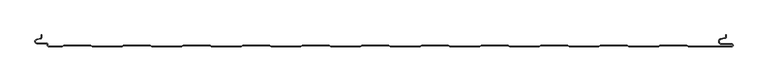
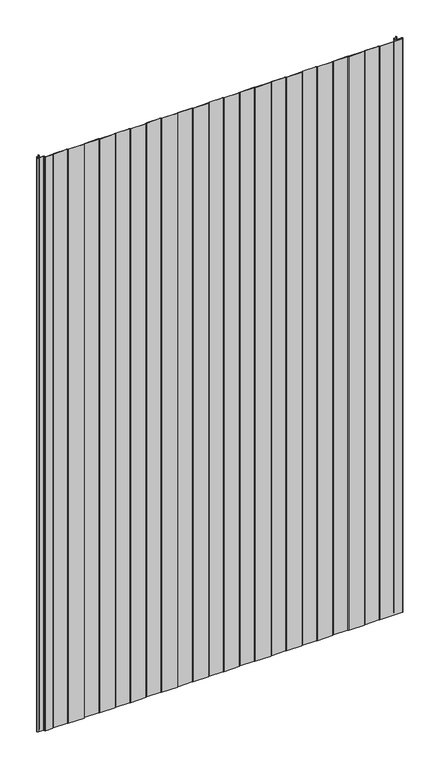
"""IFC4 building model written with IfcOpenShell, lengths in millimetres: plate geometry, PM1_Curtain-Panel_Perfil-Estándar : ACH_PM1_Panel-Acústico-Sectorización_100M."""

from ifc_helpers import new_model, si_unit, frame, origin, place, context, project, spatial, polyline, circle_curve, source, transform, mapped, element, save
from ifc_brep_helpers import plane_surface, cylinder_surface, revolved_surface, advanced_brep


def plate_77d0ed2d(model_context):
    return source(origin(), model_context, "Body", "AdvancedBrep", [
        advanced_brep(
        [(-562.4, -100.0, 1945.7507136), (-539.3999999, -100.0, 1945.7507136), (-536.8019223, -98.5, 1945.7507136), (-492.0019247, -98.5, 1945.7507136), (-489.4038471, -100.0, 1945.7507136), (-439.3999999, -100.0, 1945.7507136), (-436.8019223, -98.5, 1945.7507136), (-392.0019247, -98.5, 1945.7507136), (-389.4038471, -100.0, 1945.7507136), (-339.3999999, -100.0, 1945.7507136), (-336.8019223, -98.5, 1945.7507136), (-292.0019247, -98.5, 1945.7507136), (-289.4038471, -100.0, 1945.7507136), (-239.3999999, -100.0, 1945.7507136), (-236.8019223, -98.5, 1945.7507136), (-192.0019247, -98.5, 1945.7507136), (-189.4038471, -100.0, 1945.7507136), (-139.3999999, -100.0, 1945.7507136), (-136.8019223, -98.5, 1945.7507136), (-92.0019247, -98.5, 1945.7507136), (-89.4038471, -100.0, 1945.7507136), (-39.3999999, -100.0, 1945.7507136), (-36.8019223, -98.5, 1945.7507136), (7.9980753, -98.5, 1945.7507136), (10.5961529, -100.0, 1945.7507136), (60.6000001, -100.0, 1945.7507136), (63.1980777, -98.5, 1945.7507136), (107.9980753, -98.5, 1945.7507136), (110.5961529, -100.0, 1945.7507136), (160.6000001, -100.0, 1945.7507136), (163.1980777, -98.5, 1945.7507136), (207.9980753, -98.5, 1945.7507136), (210.5961529, -100.0, 1945.7507136), (260.6000001, -100.0, 1945.7507136), (263.1980777, -98.5, 1945.7507136), (307.9980753, -98.5, 1945.7507136), (310.5961529, -100.0, 1945.7507136), (360.6000001, -100.0, 1945.7507136), (363.1980777, -98.5, 1945.7507136), (407.9980753, -98.5, 1945.7507136), (410.5961529, -100.0, 1945.7507136), (460.6000001, -100.0, 1945.7507136), (463.1980777, -98.5, 1945.7507136), (507.9980753, -98.5, 1945.7507136), (510.5961529, -100.0, 1945.7507136), (583.1, -100.0, 1945.7507136), (585.6, -97.5, 1945.7507136), (583.1, -95.0, 1945.7507136), (566.1, -95.0, 1945.7507136), (565.4054075, -87.060769, 1945.7507136), (571.8514851, -85.924152, 1945.7507136), (574.0, -83.363652, 1945.7507136), (574.0, -80.0, 1945.7507136), (573.2, -80.0, 1945.7507136), (573.2, -83.363652, 1945.7507136), (571.7125666, -85.136306, 1945.7507136), (565.266489, -86.2729229, 1945.7507136), (566.1, -95.8, 1945.7507136), (583.1, -95.8, 1945.7507136), (583.1, -99.2, 1945.7507136), (510.8105122, -99.2, 1945.7507136), (508.2124346, -97.7, 1945.7507136), (462.9837184, -97.7, 1945.7507136), (460.3856408, -99.2, 1945.7507136), (410.8105122, -99.2, 1945.7507136), (408.2124346, -97.7, 1945.7507136), (362.9837184, -97.7, 1945.7507136), (360.3856408, -99.2, 1945.7507136), (310.8105122, -99.2, 1945.7507136), (308.2124346, -97.7, 1945.7507136), (262.9837184, -97.7, 1945.7507136), (260.3856408, -99.2, 1945.7507136), (210.8105122, -99.2, 1945.7507136), (208.2124346, -97.7, 1945.7507136), (162.9837184, -97.7, 1945.7507136), (160.3856408, -99.2, 1945.7507136), (110.8105122, -99.2, 1945.7507136), (108.2124346, -97.7, 1945.7507136), (62.9837184, -97.7, 1945.7507136), (60.3856408, -99.2, 1945.7507136), (10.8105122, -99.2, 1945.7507136), (8.2124346, -97.7, 1945.7507136), (-37.0162816, -97.7, 1945.7507136), (-39.6143592, -99.2, 1945.7507136), (-89.1894878, -99.2, 1945.7507136), (-91.7875654, -97.7, 1945.7507136), (-137.0162816, -97.7, 1945.7507136), (-139.6143592, -99.2, 1945.7507136), (-189.1894878, -99.2, 1945.7507136), (-191.7875654, -97.7, 1945.7507136), (-237.0162816, -97.7, 1945.7507136), (-239.6143592, -99.2, 1945.7507136), (-289.1894878, -99.2, 1945.7507136), (-291.7875654, -97.7, 1945.7507136), (-337.0162816, -97.7, 1945.7507136), (-339.6143592, -99.2, 1945.7507136), (-389.1894878, -99.2, 1945.7507136), (-391.7875654, -97.7, 1945.7507136), (-437.0162816, -97.7, 1945.7507136), (-439.6143592, -99.2, 1945.7507136), (-489.1894878, -99.2, 1945.7507136), (-491.7875654, -97.7, 1945.7507136), (-537.0162816, -97.7, 1945.7507136), (-539.6143592, -99.2, 1945.7507136), (-562.4, -99.2, 1945.7507136), (-563.6, -98.0, 1945.7507136), (-563.6, -96.6, 1945.7507136), (-566.4, -93.8, 1945.7507136), (-581.9, -93.8, 1945.7507136), (-582.529863, -88.2717638, 1945.7507136), (-576.370137, -86.849679, 1945.7507136), (-574.2, -84.121443, 1945.7507136), (-574.2, -80.0, 1945.7507136), (-575.0, -80.0, 1945.7507136), (-575.0, -84.121443, 1945.7507136), (-576.5500978, -86.0701831, 1945.7507136), (-582.7098239, -87.492268, 1945.7507136), (-581.9, -94.6, 1945.7507136), (-566.4, -94.6, 1945.7507136), (-564.4, -96.6, 1945.7507136), (-564.4, -98.0, 1945.7507136), (-562.4, -100.0, 0.0), (-564.4, -98.0, 0.0), (-564.4, -96.6, 0.0), (-566.4, -94.6, 0.0), (-581.9, -94.6, 0.0), (-582.7098239, -87.4922678, 0.0), (-576.5500979, -86.070183, 0.0), (-575.0, -84.121443, 0.0), (-575.0, -80.0, 0.0), (-574.2, -80.0, 0.0), (-574.2, -84.121443, 0.0), (-576.370137, -86.8496792, 0.0), (-582.529863, -88.271764, 0.0), (-581.9, -93.8, 0.0), (-566.4, -93.8, 0.0), (-563.6, -96.6, 0.0), (-563.6, -98.0, 0.0), (-562.4, -99.2, 0.0), (-539.6143592, -99.2, 0.0), (-537.0162816, -97.7, 0.0), (-491.7875654, -97.7, 0.0), (-489.1894878, -99.2, 0.0), (-439.6143592, -99.2, 0.0), (-437.0162816, -97.7, 0.0), (-391.7875654, -97.7, 0.0), (-389.1894878, -99.2, 0.0), (-339.6143592, -99.2, 0.0), (-337.0162816, -97.7, 0.0), (-291.7875654, -97.7, 0.0), (-289.1894878, -99.2, 0.0), (-239.6143592, -99.2, 0.0), (-237.0162816, -97.7, 0.0), (-191.7875654, -97.7, 0.0), (-189.1894878, -99.2, 0.0), (-139.6143592, -99.2, 0.0), (-137.0162816, -97.7, 0.0), (-91.7875654, -97.7, 0.0), (-89.1894878, -99.2, 0.0), (-39.6143592, -99.2, 0.0), (-37.0162816, -97.7, 0.0), (8.2124346, -97.7, 0.0), (10.8105122, -99.2, 0.0), (60.3856408, -99.2, 0.0), (62.9837184, -97.7, 0.0), (108.2124346, -97.7, 0.0), (110.8105122, -99.2, 0.0), (160.3856408, -99.2, 0.0), (162.9837184, -97.7, 0.0), (208.2124346, -97.7, 0.0), (210.8105122, -99.2, 0.0), (260.3856408, -99.2, 0.0), (262.9837184, -97.7, 0.0), (308.2124346, -97.7, 0.0), (310.8105122, -99.2, 0.0), (360.3856408, -99.2, 0.0), (362.9837184, -97.7, 0.0), (408.2124346, -97.7, 0.0), (410.8105122, -99.2, 0.0), (460.3856408, -99.2, 0.0), (462.9837184, -97.7, 0.0), (508.2124346, -97.7, 0.0), (510.8105122, -99.2, 0.0), (583.1, -99.2, 0.0), (583.1, -95.8, 0.0), (566.1, -95.8, 0.0), (565.266489, -86.2729227, 0.0), (571.7125666, -85.1363058, 0.0), (573.2, -83.363652, 0.0), (573.2, -80.0, 0.0), (574.0, -80.0, 0.0), (574.0, -83.363652, 0.0), (571.8514851, -85.9241522, 0.0), (565.4054075, -87.0607691, 0.0), (566.1, -95.0, 0.0), (583.1, -95.0, 0.0), (585.6, -97.5, 0.0), (583.1, -100.0, 0.0), (510.5961529, -100.0, 0.0), (507.9980753, -98.5, 0.0), (463.1980777, -98.5, 0.0), (460.6000001, -100.0, 0.0), (410.5961529, -100.0, 0.0), (407.9980753, -98.5, 0.0), (363.1980777, -98.5, 0.0), (360.6000001, -100.0, 0.0), (310.5961529, -100.0, 0.0), (307.9980753, -98.5, 0.0), (263.1980777, -98.5, 0.0), (260.6000001, -100.0, 0.0), (210.5961529, -100.0, 0.0), (207.9980753, -98.5, 0.0), (163.1980777, -98.5, 0.0), (160.6000001, -100.0, 0.0), (110.5961529, -100.0, 0.0), (107.9980753, -98.5, 0.0), (63.1980777, -98.5, 0.0), (60.6000001, -100.0, 0.0), (10.5961529, -100.0, 0.0), (7.9980753, -98.5, 0.0), (-36.8019223, -98.5, 0.0), (-39.3999999, -100.0, 0.0), (-89.4038471, -100.0, 0.0), (-92.0019247, -98.5, 0.0), (-136.8019223, -98.5, 0.0), (-139.3999999, -100.0, 0.0), (-189.4038471, -100.0, 0.0), (-192.0019247, -98.5, 0.0), (-236.8019223, -98.5, 0.0), (-239.3999999, -100.0, 0.0), (-289.4038471, -100.0, 0.0), (-292.0019247, -98.5, 0.0), (-336.8019223, -98.5, 0.0), (-339.3999999, -100.0, 0.0), (-389.4038471, -100.0, 0.0), (-392.0019247, -98.5, 0.0), (-436.8019223, -98.5, 0.0), (-439.3999999, -100.0, 0.0), (-489.4038471, -100.0, 0.0), (-492.0019247, -98.5, 0.0), (-536.8019223, -98.5, 0.0), (-539.3999999, -100.0, 0.0)],
        [
            (0, 1),
            (1, 2),
            (2, 3),
            (3, 4),
            (4, 5),
            (5, 6),
            (6, 7),
            (7, 8),
            (8, 9),
            (9, 10),
            (10, 11),
            (11, 12),
            (12, 13),
            (13, 14),
            (14, 15),
            (15, 16),
            (16, 17),
            (17, 18),
            (18, 19),
            (19, 20),
            (20, 21),
            (21, 22),
            (22, 23),
            (23, 24),
            (24, 25),
            (25, 26),
            (26, 27),
            (27, 28),
            (28, 29),
            (29, 30),
            (30, 31),
            (31, 32),
            (32, 33),
            (33, 34),
            (34, 35),
            (35, 36),
            (36, 37),
            (37, 38),
            (38, 39),
            (39, 40),
            (40, 41),
            (41, 42),
            (42, 43),
            (43, 44),
            (44, 45),
            (45, 46, circle_curve(frame((583.1, -97.5, 1945.7507136), z_axis=(0.0, 0.0, 1.0), x_axis=(1.0, 0.0, 0.0)), 2.5)),
            (46, 47, circle_curve(frame((583.1, -97.5, 1945.7507136), z_axis=(0.0, 0.0, 1.0), x_axis=(1.0, 0.0, 0.0)), 2.5)),
            (47, 48),
            (48, 49, circle_curve(frame((566.1, -91.0, 1945.7507136), z_axis=(0.0, 0.0, -1.0), x_axis=(1.0, 0.0, 0.0)), 4.0)),
            (49, 50),
            (50, 51, circle_curve(frame((571.4, -83.363652, 1945.7507136), z_axis=(0.0, 0.0, 1.0), x_axis=(1.0, 0.0, 0.0)), 2.6)),
            (51, 52),
            (52, 53),
            (53, 54),
            (54, 55, circle_curve(frame((571.4, -83.363652, 1945.7507136), z_axis=(0.0, 0.0, -1.0), x_axis=(1.0, 0.0, 0.0)), 1.8)),
            (55, 56),
            (56, 57, circle_curve(frame((566.1, -91.0, 1945.7507136), z_axis=(0.0, 0.0, 1.0), x_axis=(1.0, 0.0, 0.0)), 4.8)),
            (57, 58),
            (58, 59, circle_curve(frame((583.1, -97.5, 1945.7507136), z_axis=(0.0, 0.0, -1.0), x_axis=(1.0, 0.0, 0.0)), 1.7)),
            (59, 60),
            (60, 61),
            (61, 62),
            (62, 63),
            (63, 64),
            (64, 65),
            (65, 66),
            (66, 67),
            (67, 68),
            (68, 69),
            (69, 70),
            (70, 71),
            (71, 72),
            (72, 73),
            (73, 74),
            (74, 75),
            (75, 76),
            (76, 77),
            (77, 78),
            (78, 79),
            (79, 80),
            (80, 81),
            (81, 82),
            (82, 83),
            (83, 84),
            (84, 85),
            (85, 86),
            (86, 87),
            (87, 88),
            (88, 89),
            (89, 90),
            (90, 91),
            (91, 92),
            (92, 93),
            (93, 94),
            (94, 95),
            (95, 96),
            (96, 97),
            (97, 98),
            (98, 99),
            (99, 100),
            (100, 101),
            (101, 102),
            (102, 103),
            (103, 104),
            (104, 105, circle_curve(frame((-562.4, -98.0, 1945.7507136), z_axis=(0.0, 0.0, -1.0), x_axis=(1.0, 0.0, 0.0)), 1.2)),
            (105, 106),
            (106, 107, circle_curve(frame((-566.4, -96.6, 1945.7507136), z_axis=(0.0, 0.0, 1.0), x_axis=(1.0, 0.0, 0.0)), 2.8)),
            (107, 108),
            (108, 109, circle_curve(frame((-581.9, -91.0, 1945.7507136), z_axis=(0.0, 0.0, -1.0), x_axis=(1.0, 0.0, 0.0)), 2.8)),
            (109, 110),
            (110, 111, circle_curve(frame((-577.0, -84.121443, 1945.7507136), z_axis=(0.0, 0.0, 1.0), x_axis=(1.0, 0.0, 0.0)), 2.8)),
            (111, 112),
            (112, 113),
            (113, 114),
            (114, 115, circle_curve(frame((-577.0, -84.121443, 1945.7507136), z_axis=(0.0, 0.0, -1.0), x_axis=(1.0, 0.0, 0.0)), 2.0)),
            (115, 116),
            (116, 117, circle_curve(frame((-581.9, -91.0, 1945.7507136), z_axis=(0.0, 0.0, 1.0), x_axis=(1.0, 0.0, 0.0)), 3.6)),
            (117, 118),
            (118, 119, circle_curve(frame((-566.4, -96.6, 1945.7507136), z_axis=(0.0, 0.0, -1.0), x_axis=(1.0, 0.0, 0.0)), 2.0)),
            (119, 120),
            (120, 0, circle_curve(frame((-562.4, -98.0, 1945.7507136), z_axis=(0.0, 0.0, 1.0), x_axis=(1.0, 0.0, 0.0)), 2.0)),
            (121, 122, circle_curve(frame((-562.4, -98.0, 0.0), z_axis=(0.0, 0.0, -1.0), x_axis=(1.0, 0.0, 0.0)), 2.0)),
            (122, 123),
            (123, 124, circle_curve(frame((-566.4, -96.6, 0.0), z_axis=(0.0, 0.0, 1.0), x_axis=(1.0, 0.0, 0.0)), 2.0)),
            (124, 125),
            (125, 126, circle_curve(frame((-581.9, -91.0, 0.0), z_axis=(0.0, 0.0, -1.0), x_axis=(1.0, 0.0, 0.0)), 3.6)),
            (126, 127),
            (127, 128, circle_curve(frame((-577.0, -84.121443, 0.0), z_axis=(0.0, 0.0, 1.0), x_axis=(1.0, 0.0, 0.0)), 2.0)),
            (128, 129),
            (129, 130),
            (130, 131),
            (131, 132, circle_curve(frame((-577.0, -84.121443, 0.0), z_axis=(0.0, 0.0, -1.0), x_axis=(1.0, 0.0, 0.0)), 2.8)),
            (132, 133),
            (133, 134, circle_curve(frame((-581.9, -91.0, 0.0), z_axis=(0.0, 0.0, 1.0), x_axis=(1.0, 0.0, 0.0)), 2.8)),
            (134, 135),
            (135, 136, circle_curve(frame((-566.4, -96.6, 0.0), z_axis=(0.0, 0.0, -1.0), x_axis=(1.0, 0.0, 0.0)), 2.8)),
            (136, 137),
            (137, 138, circle_curve(frame((-562.4, -98.0, 0.0), z_axis=(0.0, 0.0, 1.0), x_axis=(1.0, 0.0, 0.0)), 1.2)),
            (138, 139),
            (139, 140),
            (140, 141),
            (141, 142),
            (142, 143),
            (143, 144),
            (144, 145),
            (145, 146),
            (146, 147),
            (147, 148),
            (148, 149),
            (149, 150),
            (150, 151),
            (151, 152),
            (152, 153),
            (153, 154),
            (154, 155),
            (155, 156),
            (156, 157),
            (157, 158),
            (158, 159),
            (159, 160),
            (160, 161),
            (161, 162),
            (162, 163),
            (163, 164),
            (164, 165),
            (165, 166),
            (166, 167),
            (167, 168),
            (168, 169),
            (169, 170),
            (170, 171),
            (171, 172),
            (172, 173),
            (173, 174),
            (174, 175),
            (175, 176),
            (176, 177),
            (177, 178),
            (178, 179),
            (179, 180),
            (180, 181),
            (181, 182),
            (182, 183),
            (183, 184, circle_curve(frame((583.1, -97.5, 0.0), z_axis=(0.0, 0.0, 1.0), x_axis=(1.0, 0.0, 0.0)), 1.7)),
            (184, 185),
            (185, 186, circle_curve(frame((566.1, -91.0, 0.0), z_axis=(0.0, 0.0, -1.0), x_axis=(1.0, 0.0, 0.0)), 4.8)),
            (186, 187),
            (187, 188, circle_curve(frame((571.4, -83.363652, 0.0), z_axis=(0.0, 0.0, 1.0), x_axis=(1.0, 0.0, 0.0)), 1.8)),
            (188, 189),
            (189, 190),
            (190, 191),
            (191, 192, circle_curve(frame((571.4, -83.363652, 0.0), z_axis=(0.0, 0.0, -1.0), x_axis=(1.0, 0.0, 0.0)), 2.6)),
            (192, 193),
            (193, 194, circle_curve(frame((566.1, -91.0, 0.0), z_axis=(0.0, 0.0, 1.0), x_axis=(1.0, 0.0, 0.0)), 4.0)),
            (194, 195),
            (195, 196, circle_curve(frame((583.1, -97.5, 0.0), z_axis=(0.0, 0.0, -1.0), x_axis=(1.0, 0.0, 0.0)), 2.5)),
            (196, 197, circle_curve(frame((583.1, -97.5, 0.0), z_axis=(0.0, 0.0, -1.0), x_axis=(1.0, 0.0, 0.0)), 2.5)),
            (197, 198),
            (198, 199),
            (199, 200),
            (200, 201),
            (201, 202),
            (202, 203),
            (203, 204),
            (204, 205),
            (205, 206),
            (206, 207),
            (207, 208),
            (208, 209),
            (209, 210),
            (210, 211),
            (211, 212),
            (212, 213),
            (213, 214),
            (214, 215),
            (215, 216),
            (216, 217),
            (217, 218),
            (218, 219),
            (219, 220),
            (220, 221),
            (221, 222),
            (222, 223),
            (223, 224),
            (224, 225),
            (225, 226),
            (226, 227),
            (227, 228),
            (228, 229),
            (229, 230),
            (230, 231),
            (231, 232),
            (232, 233),
            (233, 234),
            (234, 235),
            (235, 236),
            (236, 237),
            (237, 238),
            (238, 239),
            (239, 240),
            (240, 241),
            (241, 121),
            (0, 121),
            (241, 1),
            (240, 2),
            (239, 3),
            (238, 4),
            (237, 5),
            (236, 6),
            (235, 7),
            (234, 8),
            (233, 9),
            (232, 10),
            (231, 11),
            (230, 12),
            (229, 13),
            (228, 14),
            (227, 15),
            (226, 16),
            (225, 17),
            (224, 18),
            (223, 19),
            (222, 20),
            (221, 21),
            (220, 22),
            (219, 23),
            (218, 24),
            (217, 25),
            (216, 26),
            (215, 27),
            (214, 28),
            (213, 29),
            (212, 30),
            (211, 31),
            (210, 32),
            (209, 33),
            (208, 34),
            (207, 35),
            (206, 36),
            (205, 37),
            (204, 38),
            (203, 39),
            (202, 40),
            (201, 41),
            (200, 42),
            (199, 43),
            (198, 44),
            (197, 45),
            (195, 47),
            (194, 48),
            (193, 49),
            (192, 50),
            (191, 51),
            (190, 52),
            (189, 53),
            (188, 54),
            (187, 55),
            (186, 56),
            (185, 57),
            (184, 58),
            (183, 59),
            (182, 60),
            (181, 61),
            (180, 62),
            (179, 63),
            (178, 64),
            (177, 65),
            (176, 66),
            (175, 67),
            (174, 68),
            (173, 69),
            (172, 70),
            (171, 71),
            (170, 72),
            (169, 73),
            (168, 74),
            (167, 75),
            (166, 76),
            (165, 77),
            (164, 78),
            (163, 79),
            (162, 80),
            (161, 81),
            (160, 82),
            (159, 83),
            (158, 84),
            (157, 85),
            (156, 86),
            (155, 87),
            (154, 88),
            (153, 89),
            (152, 90),
            (151, 91),
            (150, 92),
            (149, 93),
            (148, 94),
            (147, 95),
            (146, 96),
            (145, 97),
            (144, 98),
            (143, 99),
            (142, 100),
            (141, 101),
            (140, 102),
            (139, 103),
            (138, 104),
            (137, 105),
            (136, 106),
            (135, 107),
            (134, 108),
            (133, 109),
            (132, 110),
            (131, 111),
            (130, 112),
            (129, 113),
            (128, 114),
            (127, 115),
            (126, 116),
            (125, 117),
            (124, 118),
            (123, 119),
            (122, 120),
        ],
        [
            plane_surface(frame((-575.0, -100.0, 1945.7507136), z_axis=(0.0, 0.0, 1.0), x_axis=(0.0, 1.0, 0.0))),
            plane_surface(frame((-575.0, -100.0, 0.0), z_axis=(0.0, 0.0, -1.0), x_axis=(0.0, 1.0, 0.0))),
            plane_surface(frame((-562.4, -100.0, 1945.7507136), z_axis=(0.0, -1.0, 0.0), x_axis=(0.0, 0.0, -1.0))),
            plane_surface(frame((-539.3999999, -100.0, 1945.7507136), z_axis=(0.49999979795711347, -0.8660255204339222, 0.0), x_axis=(0.0, 0.0, -1.0))),
            plane_surface(frame((-536.8019223, -98.5, 1945.7507136), z_axis=(0.0, -1.0, 0.0), x_axis=(0.0, 0.0, -1.0))),
            plane_surface(frame((-492.0019247, -98.5, 1945.7507136), z_axis=(-0.49999979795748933, -0.8660255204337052, 0.0), x_axis=(0.0, 0.0, -1.0))),
            plane_surface(frame((-489.4038471, -100.0, 1945.7507136), z_axis=(0.0, -1.0, 0.0), x_axis=(0.0, 0.0, -1.0))),
            plane_surface(frame((-439.3999999, -100.0, 1945.7507136), z_axis=(0.49999979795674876, -0.8660255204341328, 0.0), x_axis=(0.0, 0.0, -1.0))),
            plane_surface(frame((-436.8019223, -98.5, 1945.7507136), z_axis=(0.0, -1.0, 0.0), x_axis=(0.0, 0.0, -1.0))),
            plane_surface(frame((-392.0019247, -98.5, 1945.7507136), z_axis=(-0.4999997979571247, -0.8660255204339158, 0.0), x_axis=(0.0, 0.0, -1.0))),
            plane_surface(frame((-389.4038471, -100.0, 1945.7507136), z_axis=(0.0, -1.0, 0.0), x_axis=(0.0, 0.0, -1.0))),
            plane_surface(frame((-339.3999999, -100.0, 1945.7507136), z_axis=(0.49999979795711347, -0.8660255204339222, 0.0), x_axis=(0.0, 0.0, -1.0))),
            plane_surface(frame((-336.8019223, -98.5, 1945.7507136), z_axis=(0.0, -1.0, 0.0), x_axis=(0.0, 0.0, -1.0))),
            plane_surface(frame((-292.0019247, -98.5, 1945.7507136), z_axis=(-0.4999997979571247, -0.8660255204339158, 0.0), x_axis=(0.0, 0.0, -1.0))),
            plane_surface(frame((-289.4038471, -100.0, 1945.7507136), z_axis=(0.0, -1.0, 0.0), x_axis=(0.0, 0.0, -1.0))),
            plane_surface(frame((-239.3999999, -100.0, 1945.7507136), z_axis=(0.49999979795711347, -0.8660255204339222, 0.0), x_axis=(0.0, 0.0, -1.0))),
            plane_surface(frame((-236.8019223, -98.5, 1945.7507136), z_axis=(0.0, -1.0, 0.0), x_axis=(0.0, 0.0, -1.0))),
            plane_surface(frame((-192.0019247, -98.5, 1945.7507136), z_axis=(-0.49999979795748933, -0.8660255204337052, 0.0), x_axis=(0.0, 0.0, -1.0))),
            plane_surface(frame((-189.4038471, -100.0, 1945.7507136), z_axis=(0.0, -1.0, 0.0), x_axis=(0.0, 0.0, -1.0))),
            plane_surface(frame((-139.3999999, -100.0, 1945.7507136), z_axis=(0.49999979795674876, -0.8660255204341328, 0.0), x_axis=(0.0, 0.0, -1.0))),
            plane_surface(frame((-136.8019223, -98.5, 1945.7507136), z_axis=(0.0, -1.0, 0.0), x_axis=(0.0, 0.0, -1.0))),
            plane_surface(frame((-92.0019247, -98.5, 1945.7507136), z_axis=(-0.4999997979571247, -0.8660255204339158, 0.0), x_axis=(0.0, 0.0, -1.0))),
            plane_surface(frame((-89.4038471, -100.0, 1945.7507136), z_axis=(0.0, -1.0, 0.0), x_axis=(0.0, 0.0, -1.0))),
            plane_surface(frame((-39.3999999, -100.0, 1945.7507136), z_axis=(0.49999979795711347, -0.8660255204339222, 0.0), x_axis=(0.0, 0.0, -1.0))),
            plane_surface(frame((-36.8019223, -98.5, 1945.7507136), z_axis=(0.0, -1.0, 0.0), x_axis=(0.0, 0.0, -1.0))),
            plane_surface(frame((7.9980753, -98.5, 1945.7507136), z_axis=(-0.4999997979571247, -0.8660255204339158, 0.0), x_axis=(0.0, 0.0, -1.0))),
            plane_surface(frame((10.5961529, -100.0, 1945.7507136), z_axis=(0.0, -1.0, 0.0), x_axis=(0.0, 0.0, -1.0))),
            plane_surface(frame((60.6000001, -100.0, 1945.7507136), z_axis=(0.49999979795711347, -0.8660255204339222, 0.0), x_axis=(0.0, 0.0, -1.0))),
            plane_surface(frame((63.1980777, -98.5, 1945.7507136), z_axis=(0.0, -1.0, 0.0), x_axis=(0.0, 0.0, -1.0))),
            plane_surface(frame((107.9980753, -98.5, 1945.7507136), z_axis=(-0.49999979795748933, -0.8660255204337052, 0.0), x_axis=(0.0, 0.0, -1.0))),
            plane_surface(frame((110.5961529, -100.0, 1945.7507136), z_axis=(0.0, -1.0, 0.0), x_axis=(0.0, 0.0, -1.0))),
            plane_surface(frame((160.6000001, -100.0, 1945.7507136), z_axis=(0.49999979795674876, -0.8660255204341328, 0.0), x_axis=(0.0, 0.0, -1.0))),
            plane_surface(frame((163.1980777, -98.5, 1945.7507136), z_axis=(0.0, -1.0, 0.0), x_axis=(0.0, 0.0, -1.0))),
            plane_surface(frame((207.9980753, -98.5, 1945.7507136), z_axis=(-0.4999997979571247, -0.8660255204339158, 0.0), x_axis=(0.0, 0.0, -1.0))),
            plane_surface(frame((210.5961529, -100.0, 1945.7507136), z_axis=(0.0, -1.0, 0.0), x_axis=(0.0, 0.0, -1.0))),
            plane_surface(frame((260.6000001, -100.0, 1945.7507136), z_axis=(0.49999979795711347, -0.8660255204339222, 0.0), x_axis=(0.0, 0.0, -1.0))),
            plane_surface(frame((263.1980777, -98.5, 1945.7507136), z_axis=(0.0, -1.0, 0.0), x_axis=(0.0, 0.0, -1.0))),
            plane_surface(frame((307.9980753, -98.5, 1945.7507136), z_axis=(-0.4999997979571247, -0.8660255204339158, 0.0), x_axis=(0.0, 0.0, -1.0))),
            plane_surface(frame((310.5961529, -100.0, 1945.7507136), z_axis=(0.0, -1.0, 0.0), x_axis=(0.0, 0.0, -1.0))),
            plane_surface(frame((360.6000001, -100.0, 1945.7507136), z_axis=(0.49999979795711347, -0.8660255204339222, 0.0), x_axis=(0.0, 0.0, -1.0))),
            plane_surface(frame((363.1980777, -98.5, 1945.7507136), z_axis=(0.0, -1.0, 0.0), x_axis=(0.0, 0.0, -1.0))),
            plane_surface(frame((407.9980753, -98.5, 1945.7507136), z_axis=(-0.49999979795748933, -0.8660255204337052, 0.0), x_axis=(0.0, 0.0, -1.0))),
            plane_surface(frame((410.5961529, -100.0, 1945.7507136), z_axis=(0.0, -1.0, 0.0), x_axis=(0.0, 0.0, -1.0))),
            plane_surface(frame((460.6000001, -100.0, 1945.7507136), z_axis=(0.49999979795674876, -0.8660255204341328, 0.0), x_axis=(0.0, 0.0, -1.0))),
            plane_surface(frame((463.1980777, -98.5, 1945.7507136), z_axis=(0.0, -1.0, 0.0), x_axis=(0.0, 0.0, -1.0))),
            plane_surface(frame((507.9980753, -98.5, 1945.7507136), z_axis=(-0.4999997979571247, -0.8660255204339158, 0.0), x_axis=(0.0, 0.0, -1.0))),
            plane_surface(frame((560.890897, -100.0, 1945.7507136), z_axis=(0.0, -1.0, 0.0), x_axis=(0.0, 0.0, -1.0))),
            cylinder_surface(frame((583.1, -97.5, 1945.7507136), z_axis=(0.0, 0.0, 1.0), x_axis=(1.0, 0.0, 0.0)), 2.5),
            plane_surface(frame((583.1, -95.0, 1945.7507136), z_axis=(0.0, 1.0, 0.0), x_axis=(0.0, 0.0, -1.0))),
            revolved_surface(polyline([(570.1, -91.0, 0.0), (570.1, -91.0, 1945.7507136)]), (566.1, -91.0, 1945.7507136), (0.0, 0.0, -1.0)),
            plane_surface(frame((565.4054075, -87.0607691, 1945.7507136), z_axis=(0.17364813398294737, -0.9848077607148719, 0.0), x_axis=(0.0, 0.0, -1.0))),
            cylinder_surface(frame((571.4, -83.363652, 1945.7507136), z_axis=(0.0, 0.0, 1.0), x_axis=(1.0, 0.0, 0.0)), 2.6),
            plane_surface(frame((574.0, -83.363652, 1945.7507136), z_axis=(1.0, 0.0, 0.0), x_axis=(0.0, 0.0, -1.0))),
            plane_surface(frame((574.0, -80.0, 1945.7507136), z_axis=(0.0, 1.0, 0.0), x_axis=(0.0, 0.0, -1.0))),
            plane_surface(frame((573.2, -80.0, 1945.7507136), z_axis=(-1.0, 0.0, 0.0), x_axis=(0.0, 0.0, -1.0))),
            revolved_surface(polyline([(573.1999999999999, -83.363652, 0.0), (573.1999999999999, -83.363652, 1945.7507136)]), (571.4, -83.363652, 1945.7507136), (0.0, 0.0, -1.0)),
            plane_surface(frame((571.7125666, -85.1363058, 1945.7507136), z_axis=(-0.17364813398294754, 0.9848077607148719, 0.0), x_axis=(0.0, 0.0, -1.0))),
            cylinder_surface(frame((566.1, -91.0, 1945.7507136), z_axis=(0.0, 0.0, 1.0), x_axis=(1.0, 0.0, 0.0)), 4.8),
            plane_surface(frame((566.1, -95.8, 1945.7507136), z_axis=(0.0, -1.0, 0.0), x_axis=(0.0, 0.0, -1.0))),
            revolved_surface(polyline([(584.8000000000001, -97.5, 0.0), (584.8000000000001, -97.5, 1945.7507136)]), (583.1, -97.5, 1945.7507136), (0.0, 0.0, -1.0)),
            plane_surface(frame((560.890897, -99.2, 1945.7507136), z_axis=(0.0, 1.0, 0.0), x_axis=(0.0, 0.0, -1.0))),
            plane_surface(frame((510.8105122, -99.2, 1945.7507136), z_axis=(0.49999979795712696, 0.8660255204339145, 0.0), x_axis=(0.0, 0.0, -1.0))),
            plane_surface(frame((508.2124346, -97.7, 1945.7507136), z_axis=(0.0, 1.0, 0.0), x_axis=(0.0, 0.0, -1.0))),
            plane_surface(frame((462.9837184, -97.7, 1945.7507136), z_axis=(-0.4999997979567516, 0.8660255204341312, 0.0), x_axis=(0.0, 0.0, -1.0))),
            plane_surface(frame((460.3856408, -99.2, 1945.7507136), z_axis=(0.0, 1.0, 0.0), x_axis=(0.0, 0.0, -1.0))),
            plane_surface(frame((410.8105122, -99.2, 1945.7507136), z_axis=(0.4999997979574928, 0.8660255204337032, 0.0), x_axis=(0.0, 0.0, -1.0))),
            plane_surface(frame((408.2124346, -97.7, 1945.7507136), z_axis=(0.0, 1.0, 0.0), x_axis=(0.0, 0.0, -1.0))),
            plane_surface(frame((362.9837184, -97.7, 1945.7507136), z_axis=(-0.49999979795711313, 0.8660255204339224, 0.0), x_axis=(0.0, 0.0, -1.0))),
            plane_surface(frame((360.3856408, -99.2, 1945.7507136), z_axis=(0.0, 1.0, 0.0), x_axis=(0.0, 0.0, -1.0))),
            plane_surface(frame((310.8105122, -99.2, 1945.7507136), z_axis=(0.4999997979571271, 0.8660255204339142, 0.0), x_axis=(0.0, 0.0, -1.0))),
            plane_surface(frame((308.2124346, -97.7, 1945.7507136), z_axis=(0.0, 1.0, 0.0), x_axis=(0.0, 0.0, -1.0))),
            plane_surface(frame((262.9837184, -97.7, 1945.7507136), z_axis=(-0.49999979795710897, 0.8660255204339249, 0.0), x_axis=(0.0, 0.0, -1.0))),
            plane_surface(frame((260.3856408, -99.2, 1945.7507136), z_axis=(0.0, 1.0, 0.0), x_axis=(0.0, 0.0, -1.0))),
            plane_surface(frame((210.8105122, -99.2, 1945.7507136), z_axis=(0.4999997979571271, 0.8660255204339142, 0.0), x_axis=(0.0, 0.0, -1.0))),
            plane_surface(frame((208.2124346, -97.7, 1945.7507136), z_axis=(0.0, 1.0, 0.0), x_axis=(0.0, 0.0, -1.0))),
            plane_surface(frame((162.9837184, -97.7, 1945.7507136), z_axis=(-0.4999997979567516, 0.8660255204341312, 0.0), x_axis=(0.0, 0.0, -1.0))),
            plane_surface(frame((160.3856408, -99.2, 1945.7507136), z_axis=(0.0, 1.0, 0.0), x_axis=(0.0, 0.0, -1.0))),
            plane_surface(frame((110.8105122, -99.2, 1945.7507136), z_axis=(0.49999979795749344, 0.8660255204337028, 0.0), x_axis=(0.0, 0.0, -1.0))),
            plane_surface(frame((108.2124346, -97.7, 1945.7507136), z_axis=(0.0, 1.0, 0.0), x_axis=(0.0, 0.0, -1.0))),
            plane_surface(frame((62.9837184, -97.7, 1945.7507136), z_axis=(-0.49999979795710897, 0.8660255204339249, 0.0), x_axis=(0.0, 0.0, -1.0))),
            plane_surface(frame((60.3856408, -99.2, 1945.7507136), z_axis=(0.0, 1.0, 0.0), x_axis=(0.0, 0.0, -1.0))),
            plane_surface(frame((10.8105122, -99.2, 1945.7507136), z_axis=(0.4999997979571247, 0.8660255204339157, 0.0), x_axis=(0.0, 0.0, -1.0))),
            plane_surface(frame((8.2124346, -97.7, 1945.7507136), z_axis=(0.0, 1.0, 0.0), x_axis=(0.0, 0.0, -1.0))),
            plane_surface(frame((-37.0162816, -97.7, 1945.7507136), z_axis=(-0.49999979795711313, 0.8660255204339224, 0.0), x_axis=(0.0, 0.0, -1.0))),
            plane_surface(frame((-39.6143592, -99.2, 1945.7507136), z_axis=(0.0, 1.0, 0.0), x_axis=(0.0, 0.0, -1.0))),
            plane_surface(frame((-89.1894878, -99.2, 1945.7507136), z_axis=(0.4999997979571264, 0.8660255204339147, 0.0), x_axis=(0.0, 0.0, -1.0))),
            plane_surface(frame((-91.7875654, -97.7, 1945.7507136), z_axis=(0.0, 1.0, 0.0), x_axis=(0.0, 0.0, -1.0))),
            plane_surface(frame((-137.0162816, -97.7, 1945.7507136), z_axis=(-0.49999979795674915, 0.8660255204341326, 0.0), x_axis=(0.0, 0.0, -1.0))),
            plane_surface(frame((-139.6143592, -99.2, 1945.7507136), z_axis=(0.0, 1.0, 0.0), x_axis=(0.0, 0.0, -1.0))),
            plane_surface(frame((-189.1894878, -99.2, 1945.7507136), z_axis=(0.49999979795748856, 0.8660255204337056, 0.0), x_axis=(0.0, 0.0, -1.0))),
            plane_surface(frame((-191.7875654, -97.7, 1945.7507136), z_axis=(0.0, 1.0, 0.0), x_axis=(0.0, 0.0, -1.0))),
            plane_surface(frame((-237.0162816, -97.7, 1945.7507136), z_axis=(-0.4999997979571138, 0.866025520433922, 0.0), x_axis=(0.0, 0.0, -1.0))),
            plane_surface(frame((-239.6143592, -99.2, 1945.7507136), z_axis=(0.0, 1.0, 0.0), x_axis=(0.0, 0.0, -1.0))),
            plane_surface(frame((-289.1894878, -99.2, 1945.7507136), z_axis=(0.49999979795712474, 0.8660255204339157, 0.0), x_axis=(0.0, 0.0, -1.0))),
            plane_surface(frame((-291.7875654, -97.7, 1945.7507136), z_axis=(0.0, 1.0, 0.0), x_axis=(0.0, 0.0, -1.0))),
            plane_surface(frame((-337.0162816, -97.7, 1945.7507136), z_axis=(-0.49999979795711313, 0.8660255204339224, 0.0), x_axis=(0.0, 0.0, -1.0))),
            plane_surface(frame((-339.6143592, -99.2, 1945.7507136), z_axis=(0.0, 1.0, 0.0), x_axis=(0.0, 0.0, -1.0))),
            plane_surface(frame((-389.1894878, -99.2, 1945.7507136), z_axis=(0.49999979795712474, 0.8660255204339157, 0.0), x_axis=(0.0, 0.0, -1.0))),
            plane_surface(frame((-391.7875654, -97.7, 1945.7507136), z_axis=(0.0, 1.0, 0.0), x_axis=(0.0, 0.0, -1.0))),
            plane_surface(frame((-437.0162816, -97.7, 1945.7507136), z_axis=(-0.49999979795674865, 0.8660255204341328, 0.0), x_axis=(0.0, 0.0, -1.0))),
            plane_surface(frame((-439.6143592, -99.2, 1945.7507136), z_axis=(0.0, 1.0, 0.0), x_axis=(0.0, 0.0, -1.0))),
            plane_surface(frame((-489.1894878, -99.2, 1945.7507136), z_axis=(0.49999979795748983, 0.866025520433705, 0.0), x_axis=(0.0, 0.0, -1.0))),
            plane_surface(frame((-491.7875654, -97.7, 1945.7507136), z_axis=(0.0, 1.0, 0.0), x_axis=(0.0, 0.0, -1.0))),
            plane_surface(frame((-537.0162816, -97.7, 1945.7507136), z_axis=(-0.49999979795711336, 0.8660255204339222, 0.0), x_axis=(0.0, 0.0, -1.0))),
            plane_surface(frame((-539.6143592, -99.2, 1945.7507136), z_axis=(0.0, 1.0, 0.0), x_axis=(0.0, 0.0, -1.0))),
            revolved_surface(polyline([(-561.1999999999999, -98.0, 0.0), (-561.1999999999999, -98.0, 1945.7507136)]), (-562.4, -98.0, 1945.7507136), (0.0, 0.0, -1.0)),
            plane_surface(frame((-563.6, -98.0, 1945.7507136), z_axis=(1.0, 0.0, 0.0), x_axis=(0.0, 0.0, -1.0))),
            cylinder_surface(frame((-566.4, -96.6, 1945.7507136), z_axis=(0.0, 0.0, 1.0), x_axis=(1.0, 0.0, 0.0)), 2.8),
            plane_surface(frame((-566.4, -93.8, 1945.7507136), z_axis=(0.0, 1.0, 0.0), x_axis=(0.0, 0.0, -1.0))),
            revolved_surface(polyline([(-579.1, -91.0, 0.0), (-579.1, -91.0, 1945.7507136)]), (-581.9, -91.0, 1945.7507136), (0.0, 0.0, -1.0)),
            plane_surface(frame((-582.529863, -88.271764, 1945.7507136), z_axis=(0.2249510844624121, -0.9743700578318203, 0.0), x_axis=(0.0, 0.0, -1.0))),
            cylinder_surface(frame((-577.0, -84.121443, 1945.7507136), z_axis=(0.0, 0.0, 1.0), x_axis=(1.0, 0.0, 0.0)), 2.8),
            plane_surface(frame((-574.2, -84.121443, 1945.7507136), z_axis=(1.0, 0.0, 0.0), x_axis=(0.0, 0.0, -1.0))),
            plane_surface(frame((-574.2, -80.0, 1945.7507136), z_axis=(0.0, 1.0, 0.0), x_axis=(0.0, 0.0, -1.0))),
            plane_surface(frame((-575.0, -80.0, 1945.7507136), z_axis=(-1.0, 0.0, 0.0), x_axis=(0.0, 0.0, -1.0))),
            revolved_surface(polyline([(-575.0, -84.121443, 0.0), (-575.0, -84.121443, 1945.7507136)]), (-577.0, -84.121443, 1945.7507136), (0.0, 0.0, -1.0)),
            plane_surface(frame((-576.5500979, -86.070183, 1945.7507136), z_axis=(-0.22495108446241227, 0.9743700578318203, 0.0), x_axis=(0.0, 0.0, -1.0))),
            cylinder_surface(frame((-581.9, -91.0, 1945.7507136), z_axis=(0.0, 0.0, 1.0), x_axis=(1.0, 0.0, 0.0)), 3.6),
            plane_surface(frame((-581.9, -94.6, 1945.7507136), z_axis=(0.0, -1.0, 0.0), x_axis=(0.0, 0.0, -1.0))),
            revolved_surface(polyline([(-564.4, -96.6, 0.0), (-564.4, -96.6, 1945.7507136)]), (-566.4, -96.6, 1945.7507136), (0.0, 0.0, -1.0)),
            plane_surface(frame((-564.4, -96.6, 1945.7507136), z_axis=(-1.0, 0.0, 0.0), x_axis=(0.0, 0.0, -1.0))),
            cylinder_surface(frame((-562.4, -98.0, 1945.7507136), z_axis=(0.0, 0.0, 1.0), x_axis=(1.0, 0.0, 0.0)), 2.0),
        ],
        [
            (0, [[1, 2, 3, 4, 5, 6, 7, 8, 9, 10, 11, 12, 13, 14, 15, 16, 17, 18, 19, 20, 21, 22, 23, 24, 25, 26, 27, 28, 29, 30, 31, 32, 33, 34, 35, 36, 37, 38, 39, 40, 41, 42, 43, 44, 45, 46, 47, 48, 49, 50, 51, 52, 53, 54, 55, 56, 57, 58, 59, 60, 61, 62, 63, 64, 65, 66, 67, 68, 69, 70, 71, 72, 73, 74, 75, 76, 77, 78, 79, 80, 81, 82, 83, 84, 85, 86, 87, 88, 89, 90, 91, 92, 93, 94, 95, 96, 97, 98, 99, 100, 101, 102, 103, 104, 105, 106, 107, 108, 109, 110, 111, 112, 113, 114, 115, 116, 117, 118, 119, 120, 121]]),
            (1, [[122, 123, 124, 125, 126, 127, 128, 129, 130, 131, 132, 133, 134, 135, 136, 137, 138, 139, 140, 141, 142, 143, 144, 145, 146, 147, 148, 149, 150, 151, 152, 153, 154, 155, 156, 157, 158, 159, 160, 161, 162, 163, 164, 165, 166, 167, 168, 169, 170, 171, 172, 173, 174, 175, 176, 177, 178, 179, 180, 181, 182, 183, 184, 185, 186, 187, 188, 189, 190, 191, 192, 193, 194, 195, 196, 197, 198, 199, 200, 201, 202, 203, 204, 205, 206, 207, 208, 209, 210, 211, 212, 213, 214, 215, 216, 217, 218, 219, 220, 221, 222, 223, 224, 225, 226, 227, 228, 229, 230, 231, 232, 233, 234, 235, 236, 237, 238, 239, 240, 241, 242]]),
            (2, [[-1, 243, -242, 244]]),
            (3, [[-2, -244, -241, 245]]),
            (4, [[-3, -245, -240, 246]]),
            (5, [[-4, -246, -239, 247]]),
            (6, [[-5, -247, -238, 248]]),
            (7, [[-6, -248, -237, 249]]),
            (8, [[-7, -249, -236, 250]]),
            (9, [[-8, -250, -235, 251]]),
            (10, [[-9, -251, -234, 252]]),
            (11, [[-10, -252, -233, 253]]),
            (12, [[-11, -253, -232, 254]]),
            (13, [[-12, -254, -231, 255]]),
            (14, [[-13, -255, -230, 256]]),
            (15, [[-14, -256, -229, 257]]),
            (16, [[-15, -257, -228, 258]]),
            (17, [[-16, -258, -227, 259]]),
            (18, [[-17, -259, -226, 260]]),
            (19, [[-18, -260, -225, 261]]),
            (20, [[-19, -261, -224, 262]]),
            (21, [[-20, -262, -223, 263]]),
            (22, [[-21, -263, -222, 264]]),
            (23, [[-22, -264, -221, 265]]),
            (24, [[-23, -265, -220, 266]]),
            (25, [[-24, -266, -219, 267]]),
            (26, [[-25, -267, -218, 268]]),
            (27, [[-26, -268, -217, 269]]),
            (28, [[-27, -269, -216, 270]]),
            (29, [[-28, -270, -215, 271]]),
            (30, [[-29, -271, -214, 272]]),
            (31, [[-30, -272, -213, 273]]),
            (32, [[-31, -273, -212, 274]]),
            (33, [[-32, -274, -211, 275]]),
            (34, [[-33, -275, -210, 276]]),
            (35, [[-34, -276, -209, 277]]),
            (36, [[-35, -277, -208, 278]]),
            (37, [[-36, -278, -207, 279]]),
            (38, [[-37, -279, -206, 280]]),
            (39, [[-38, -280, -205, 281]]),
            (40, [[-39, -281, -204, 282]]),
            (41, [[-40, -282, -203, 283]]),
            (42, [[-41, -283, -202, 284]]),
            (43, [[-42, -284, -201, 285]]),
            (44, [[-43, -285, -200, 286]]),
            (45, [[-44, -286, -199, 287]]),
            (46, [[-45, -287, -198, 288]]),
            (47, [[-288, -197, -196, 289, -47, -46]]),
            (48, [[-48, -289, -195, 290]]),
            (49, [[-49, -290, -194, 291]]),
            (50, [[-50, -291, -193, 292]]),
            (51, [[-51, -292, -192, 293]]),
            (52, [[-52, -293, -191, 294]]),
            (53, [[-53, -294, -190, 295]]),
            (54, [[-54, -295, -189, 296]]),
            (55, [[-55, -296, -188, 297]]),
            (56, [[-56, -297, -187, 298]]),
            (57, [[-57, -298, -186, 299]]),
            (58, [[-58, -299, -185, 300]]),
            (59, [[-59, -300, -184, 301]]),
            (60, [[-60, -301, -183, 302]]),
            (61, [[-61, -302, -182, 303]]),
            (62, [[-62, -303, -181, 304]]),
            (63, [[-63, -304, -180, 305]]),
            (64, [[-64, -305, -179, 306]]),
            (65, [[-65, -306, -178, 307]]),
            (66, [[-66, -307, -177, 308]]),
            (67, [[-67, -308, -176, 309]]),
            (68, [[-68, -309, -175, 310]]),
            (69, [[-69, -310, -174, 311]]),
            (70, [[-70, -311, -173, 312]]),
            (71, [[-71, -312, -172, 313]]),
            (72, [[-72, -313, -171, 314]]),
            (73, [[-73, -314, -170, 315]]),
            (74, [[-74, -315, -169, 316]]),
            (75, [[-75, -316, -168, 317]]),
            (76, [[-76, -317, -167, 318]]),
            (77, [[-77, -318, -166, 319]]),
            (78, [[-78, -319, -165, 320]]),
            (79, [[-79, -320, -164, 321]]),
            (80, [[-80, -321, -163, 322]]),
            (81, [[-81, -322, -162, 323]]),
            (82, [[-82, -323, -161, 324]]),
            (83, [[-83, -324, -160, 325]]),
            (84, [[-84, -325, -159, 326]]),
            (85, [[-85, -326, -158, 327]]),
            (86, [[-86, -327, -157, 328]]),
            (87, [[-87, -328, -156, 329]]),
            (88, [[-88, -329, -155, 330]]),
            (89, [[-89, -330, -154, 331]]),
            (90, [[-90, -331, -153, 332]]),
            (91, [[-91, -332, -152, 333]]),
            (92, [[-92, -333, -151, 334]]),
            (93, [[-93, -334, -150, 335]]),
            (94, [[-94, -335, -149, 336]]),
            (95, [[-95, -336, -148, 337]]),
            (96, [[-96, -337, -147, 338]]),
            (97, [[-97, -338, -146, 339]]),
            (98, [[-98, -339, -145, 340]]),
            (99, [[-99, -340, -144, 341]]),
            (100, [[-100, -341, -143, 342]]),
            (101, [[-101, -342, -142, 343]]),
            (102, [[-102, -343, -141, 344]]),
            (103, [[-103, -344, -140, 345]]),
            (104, [[-104, -345, -139, 346]]),
            (105, [[-105, -346, -138, 347]]),
            (106, [[-106, -347, -137, 348]]),
            (107, [[-107, -348, -136, 349]]),
            (108, [[-108, -349, -135, 350]]),
            (109, [[-109, -350, -134, 351]]),
            (110, [[-110, -351, -133, 352]]),
            (111, [[-111, -352, -132, 353]]),
            (112, [[-112, -353, -131, 354]]),
            (113, [[-113, -354, -130, 355]]),
            (114, [[-114, -355, -129, 356]]),
            (115, [[-115, -356, -128, 357]]),
            (116, [[-116, -357, -127, 358]]),
            (117, [[-117, -358, -126, 359]]),
            (118, [[-118, -359, -125, 360]]),
            (119, [[-119, -360, -124, 361]]),
            (120, [[-120, -361, -123, 362]]),
            (121, [[-121, -362, -122, -243]]),
        ],
    ),
    ])


if __name__ == "__main__":
    model = new_model("IFC4")
    model_context = context("Model", 3, world=origin())
    ifc_project = project(units=[si_unit("LENGTHUNIT", "METRE", prefix="MILLI")], contexts=[model_context])
    site = spatial("IfcSite", under=ifc_project)
    building = spatial("IfcBuilding", under=site)
    placement = place(None, origin())
    plate_shape = plate_77d0ed2d(model_context)
    element("IfcPlate", 1, ObjectType="PM1_Curtain-Panel_Perfil-Estándar : ACH_PM1_Panel-Acústico-Sectorización_100M", at=placement, inside=building, context=model_context, shape_type="MappedRepresentation", body=[
        mapped(plate_shape, transform((0.0, 0.0, 0.0), x_axis=(1.0, 0.0, 0.0), y_axis=(0.0, 1.0, 0.0), z_axis=(0.0, 0.0, 1.0))),
    ])
    save(model, "model.ifc")
